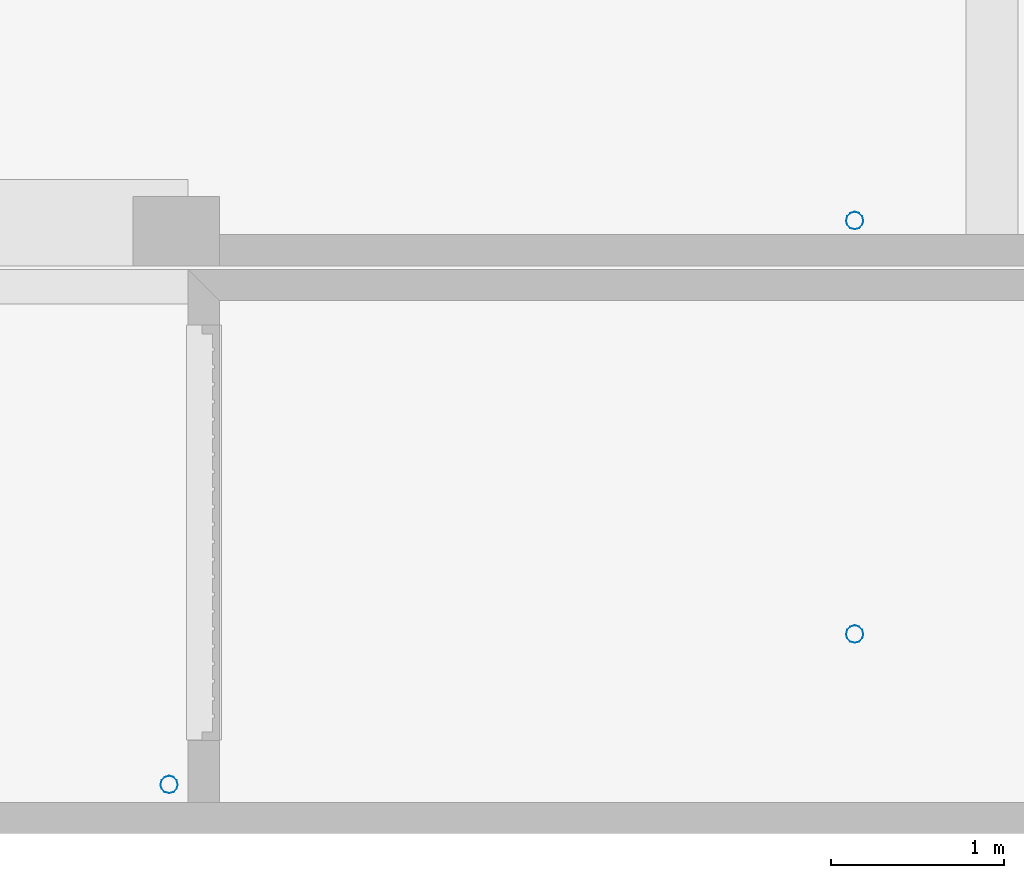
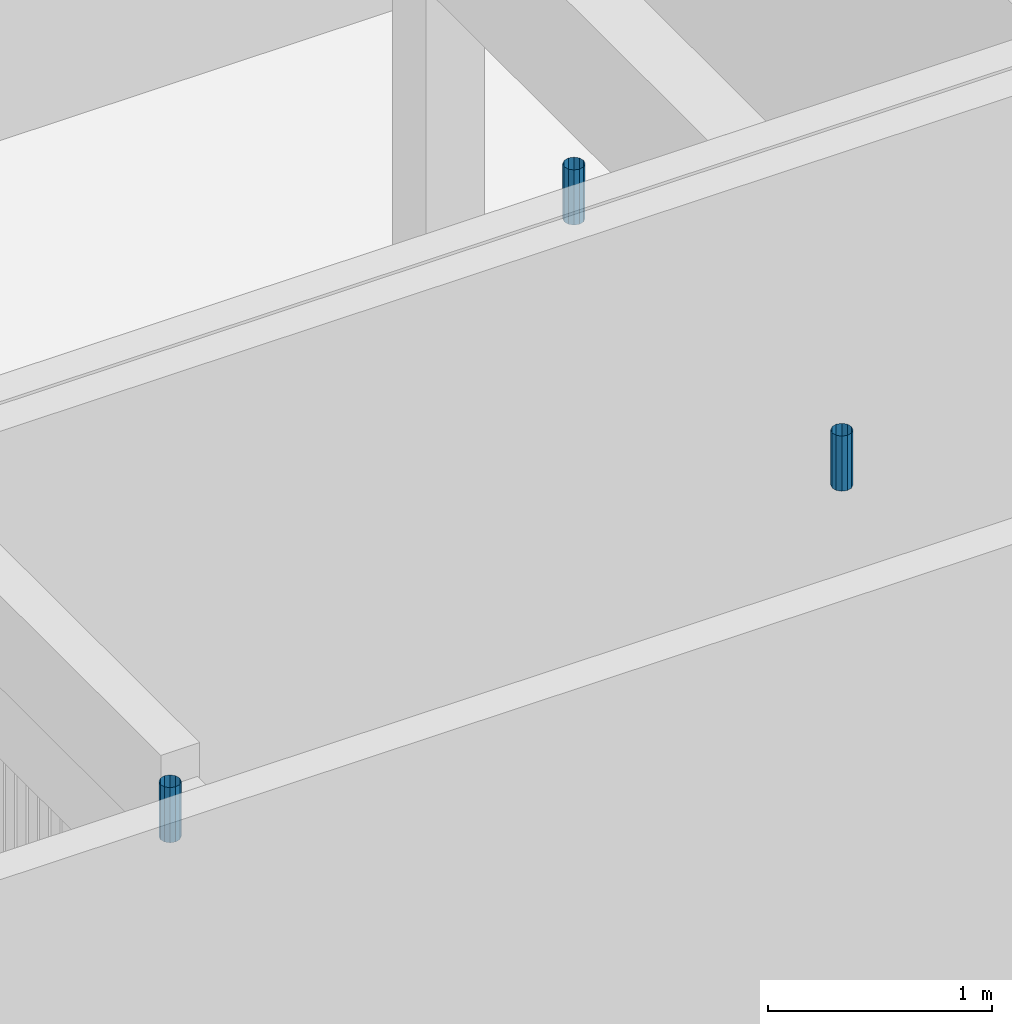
# One storey, part 21 of 41: 3 discrete accessories.
"""IFC2X3 building model written with IfcOpenShell, lengths in millimetres."""

from ifc_helpers import new_model, entity, si_unit, converted_unit, derived_unit, money_unit, direction, frame, origin_with_axes, place, context, subcontext, project, spatial, open_shell, surface_model, source, transform, mapped, type_object, element, save


model = new_model("IFC2X3")

# Units and contexts
model_context = context("Model", 3, precision=0.01, world=origin_with_axes(), true_north=direction((0.0, 1.0)))
body_context = subcontext(model_context, "Body", "Model", "MODEL_VIEW")
ifc_project = project(units=[si_unit("LENGTHUNIT", "METRE", prefix="MILLI"), si_unit("AREAUNIT", "SQUARE_METRE"), si_unit("VOLUMEUNIT", "CUBIC_METRE"), converted_unit("PLANEANGLEUNIT", "DEGREE", entity("IfcPlaneAngleMeasure", 0.0174532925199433), si_unit("PLANEANGLEUNIT", "RADIAN"), dimensions=[0, 0, 0, 0, 0, 0, 0]), money_unit("USD"), converted_unit("TIMEUNIT", "Year", entity("IfcTimeMeasure", 31557600.0), si_unit("TIMEUNIT", "SECOND"), dimensions=[0, 0, 1, 0, 0, 0, 0]), si_unit("MASSUNIT", "GRAM", prefix="KILO"), si_unit("THERMODYNAMICTEMPERATUREUNIT", "DEGREE_CELSIUS"), si_unit("LUMINOUSINTENSITYUNIT", "LUMEN"), si_unit("ENERGYUNIT", "JOULE", prefix="MEGA"), derived_unit("THERMALCONDUCTANCEUNIT", [(si_unit("POWERUNIT", "WATT"), 1), (si_unit("LENGTHUNIT", "METRE"), -1), (si_unit("THERMODYNAMICTEMPERATUREUNIT", "KELVIN"), -1)]), derived_unit("SPECIFICHEATCAPACITYUNIT", [(si_unit("ENERGYUNIT", "JOULE"), 1), (si_unit("MASSUNIT", "GRAM", prefix="KILO"), -1), (si_unit("THERMODYNAMICTEMPERATUREUNIT", "KELVIN"), -1)]), derived_unit("MASSDENSITYUNIT", [(si_unit("MASSUNIT", "GRAM", prefix="KILO"), 1), (si_unit("VOLUMEUNIT", "CUBIC_METRE"), -1)])], contexts=[model_context])

# Site, building, storey
site_placement = place(None, origin_with_axes())
site = spatial("IfcSite", under=ifc_project, at=site_placement, Name="Site", CompositionType="ELEMENT")
building_placement = place(site_placement, origin_with_axes())
building = spatial("IfcBuilding", under=site, at=building_placement, Name="Bâtiment", CompositionType="ELEMENT")
storey_placement = place(building_placement, origin_with_axes())
storey = spatial("IfcBuildingStorey", under=building, at=storey_placement, Name="sousol", CompositionType="ELEMENT", Elevation=0.0)

# Discrete accessories
discrete_accessory_type = type_object("IfcDiscreteAccessoryType", Name="Tuyau descente 27")
shared_shape = source(origin_with_axes(), body_context, "Body", "SurfaceModel", [
    surface_model("IfcShellBasedSurfaceModel", [(50.0, 0.0, 300.0), (43.30127018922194, -25.0, 300.0), (43.30127018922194, -25.0, 0.0), (50.0, 0.0, 0.0), (25.00000000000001, -43.30127018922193, 300.0), (25.00000000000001, -43.30127018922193, 0.0), (43.30127018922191, 25.00000000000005, 300.0), (43.30127018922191, 25.00000000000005, 0.0), (0.0, -50.0, 300.0), (0.0, -50.0, 0.0), (24.99999999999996, 43.30127018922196, 300.0), (24.99999999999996, 43.30127018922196, 0.0), (-24.99999999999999, -43.30127018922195, 300.0), (-24.99999999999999, -43.30127018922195, 0.0), (0.0, 50.0, 300.0), (0.0, 50.0, 0.0), (-43.30127018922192, -25.00000000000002, 300.0), (-43.30127018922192, -25.00000000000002, 0.0), (-25.00000000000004, 43.30127018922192, 300.0), (-25.00000000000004, 43.30127018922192, 0.0), (-50.0, 0.0, 300.0), (-50.0, 0.0, 0.0), (-43.30127018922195, 24.99999999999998, 300.0), (-43.30127018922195, 24.99999999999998, 0.0)], [open_shell([[[0, 1, 2, 3]], [[1, 4, 5, 2]], [[6, 0, 3, 7]], [[4, 8, 9, 5]], [[10, 6, 7, 11]], [[8, 12, 13, 9]], [[14, 10, 11, 15]], [[12, 16, 17, 13]], [[18, 14, 15, 19]], [[16, 20, 21, 17]], [[22, 18, 19, 23]], [[20, 22, 23, 21]]])]),
])
for number, where, z_axis, x_axis, name in (
    (1, (2231864.233338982, -657556.9887538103, 2700.0), (0.0, 0.0, 1.0), (1.0, 0.0, 0.0), "Obj.-318"),
    (2, (2231864.233338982, -659945.2572130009, 2700.0), (0.0, 0.0, 1.0), (1.0, 0.0, 0.0), "Obj.-318"),
    (3, (2227904.863986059, -660814.1521233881, 2700.0), (0.0, 0.0, 1.0), (1.0, 0.0, 0.0), "Obj.-318"),
):
    element("IfcDiscreteAccessory", number, at=place(storey_placement, frame(where, z_axis=z_axis, x_axis=x_axis)), inside=storey, type_object=discrete_accessory_type, Name=name, context=body_context, shape_type="MappedRepresentation", body=[
        mapped(shared_shape, transform((0.0, 0.0, 0.0))),
    ])

save(model, "model.ifc")
